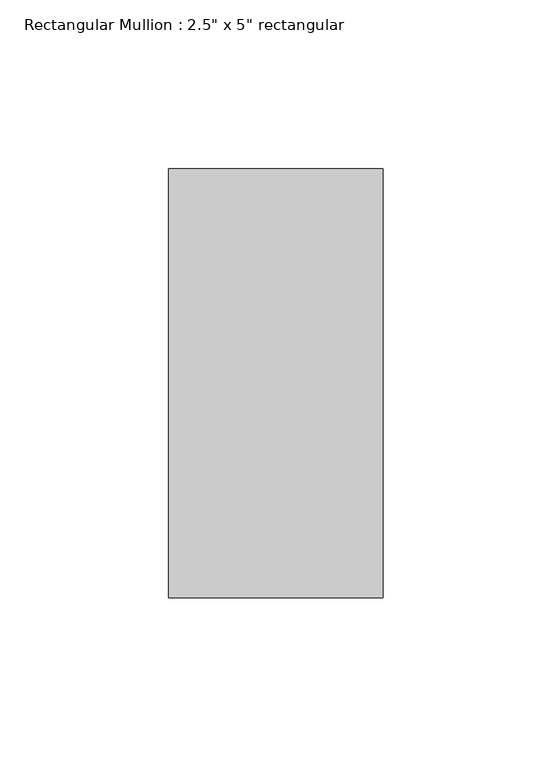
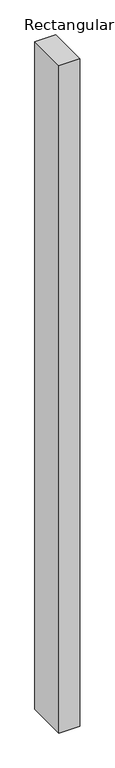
"""IFC4 building model written with IfcOpenShell, lengths in millimetres: member geometry."""

import ifcopenshell
import ifcopenshell.guid

model = None  # the IFC model being written
_history = None  # IfcOwnerHistory: only IFC2X3 demands one
_inside = {}  # id of a spatial element -> (the spatial element, [elements in it])
_under = {}  # id of a project, library or spatial element -> (it, [spatial elements below it])
_declared = {}  # id of a project -> (the project, [libraries it declares])
_typed = {}  # id of a type object -> (the type object, [elements of that type])
_made_of = {}  # id of a material, layer set ... -> (it, [elements and type objects made of it])


def new_model(schema):
    """Start an empty IFC model of exactly this schema.

    Asked for "IFC4X3", IfcOpenShell would pick the latest addendum, in which some entities
    have other attributes; the version numbers below select the first issue.
    IFC2X3 requires an IfcOwnerHistory on every rooted entity: one is made here for all.
    """
    global model, _history
    if schema == "IFC4X3":
        model = ifcopenshell.file(schema_version=(4, 3, 0, 0))
    else:
        model = ifcopenshell.file(schema=schema)
    _inside.clear()
    _under.clear()
    _declared.clear()
    _typed.clear()
    _made_of.clear()
    _history = None
    if model.schema == "IFC2X3":
        org = make("IfcOrganization", Name="unknown")
        user = make(
            "IfcPersonAndOrganization",
            ThePerson=make("IfcPerson", FamilyName="unknown"),
            TheOrganization=org,
        )
        app = make(
            "IfcApplication",
            ApplicationDeveloper=org,
            Version="unknown",
            ApplicationFullName="unknown",
            ApplicationIdentifier="unknown",
        )
        _history = make(
            "IfcOwnerHistory",
            OwningUser=user,
            OwningApplication=app,
            ChangeAction="ADDED",
            CreationDate=0,
        )
    return model


def make(cls, **values):
    """One entity of the class cls with the attributes given. An attribute that is None is left unset."""
    return model.create_entity(
        cls, **{name: value for name, value in values.items() if value is not None}
    )


def rooted(cls, **values):
    """An entity with a GlobalId (a new one), such as an element, a storey or a relation."""
    return make(cls, GlobalId=ifcopenshell.guid.new(), OwnerHistory=_history, **values)


def si_unit(unit_type, name, prefix=None):
    """IfcSIUnit, for example si_unit("LENGTHUNIT", "METRE", prefix="MILLI")."""
    return make("IfcSIUnit", UnitType=unit_type, Prefix=prefix, Name=name)


def assignment(units):
    """IfcUnitAssignment: the units of a project."""
    return None if units is None else make("IfcUnitAssignment", Units=units)


def point(xyz):
    """IfcCartesianPoint."""
    return None if xyz is None else make("IfcCartesianPoint", Coordinates=xyz)


def direction(xyz):
    """IfcDirection."""
    return None if xyz is None else make("IfcDirection", DirectionRatios=xyz)


def frame(location, z_axis=None, x_axis=None):
    """IfcAxis2Placement3D, a coordinate frame: its origin and axes. An axis left out is left unset."""
    return make(
        "IfcAxis2Placement3D",
        Location=point(location),
        Axis=direction(z_axis),
        RefDirection=direction(x_axis),
    )


def origin():
    """The frame at (0, 0, 0) with its axes left unset."""
    return frame((0.0, 0.0, 0.0))


def place(relative_to, where):
    """IfcLocalPlacement: puts the frame where relative to a parent placement (None: the world)."""
    return make(
        "IfcLocalPlacement", PlacementRelTo=relative_to, RelativePlacement=where
    )


def context(
    kind, dimensions, precision=None, world=None, true_north=None, identifier=None
):
    """IfcGeometricRepresentationContext, for example the 3D "Model" context."""
    return make(
        "IfcGeometricRepresentationContext",
        ContextIdentifier=identifier,
        ContextType=kind,
        CoordinateSpaceDimension=dimensions,
        Precision=precision,
        WorldCoordinateSystem=world,
        TrueNorth=true_north,
    )


def project(units=None, contexts=None):
    """IfcProject with its units and contexts."""
    return rooted(
        "IfcProject",
        Name="project",
        RepresentationContexts=contexts,
        UnitsInContext=assignment(units),
    )


def spatial(cls, under=None, at=None, **own):
    """A site, building, storey or space (cls), placed at a placement, below another one or the project."""
    s = rooted(cls, ObjectPlacement=at, **own)
    if under is not None:
        _under.setdefault(under.id(), (under, []))[1].append(s)
    return s


def polyline(points):
    """IfcPolyline through the points."""
    return make("IfcPolyline", Points=[point(p) for p in points])


def outline(outer, holes=None, kind="AREA"):
    """IfcArbitraryClosedProfileDef: a profile drawn as a closed curve; with holes, ...WithVoids."""
    if holes is None:
        return make("IfcArbitraryClosedProfileDef", ProfileType=kind, OuterCurve=outer)
    return make(
        "IfcArbitraryProfileDefWithVoids",
        ProfileType=kind,
        OuterCurve=outer,
        InnerCurves=holes,
    )


def extrude(swept, where, along, depth):
    """IfcExtrudedAreaSolid: the profile swept, set in the frame where, extruded along a direction by depth."""
    return make(
        "IfcExtrudedAreaSolid",
        SweptArea=swept,
        Position=where,
        ExtrudedDirection=direction(along),
        Depth=depth,
    )


def shape(context_of_items, identifier, shape_type, items):
    """IfcShapeRepresentation: the items that make up one representation, for example the "Body"."""
    return make(
        "IfcShapeRepresentation",
        ContextOfItems=context_of_items,
        RepresentationIdentifier=identifier,
        RepresentationType=shape_type,
        Items=items,
    )


def source(mapping_origin, context_of_items, identifier, shape_type, items):
    """IfcRepresentationMap: a shape defined once, which mapped items show again and again."""
    return make(
        "IfcRepresentationMap",
        MappingOrigin=mapping_origin,
        MappedRepresentation=shape(context_of_items, identifier, shape_type, items),
    )


def transform(
    local_origin,
    x_axis=None,
    y_axis=None,
    z_axis=None,
    scale=None,
    scale2=None,
    scale3=None,
    uniform=True,
):
    """IfcCartesianTransformationOperator3D, or its non-uniform kind. x_axis, y_axis, z_axis: its Axis1, 2, 3."""
    if uniform:
        return make(
            "IfcCartesianTransformationOperator3D",
            Axis1=direction(x_axis),
            Axis2=direction(y_axis),
            LocalOrigin=point(local_origin),
            Scale=scale,
            Axis3=direction(z_axis),
        )
    return make(
        "IfcCartesianTransformationOperator3DnonUniform",
        Axis1=direction(x_axis),
        Axis2=direction(y_axis),
        LocalOrigin=point(local_origin),
        Scale=scale,
        Axis3=direction(z_axis),
        Scale2=scale2,
        Scale3=scale3,
    )


def mapped(mapping_source, mapping_target):
    """IfcMappedItem: shows the shape of a source again, moved by a transform."""
    return make(
        "IfcMappedItem", MappingSource=mapping_source, MappingTarget=mapping_target
    )


def made_of(thing, what):
    """Note that an element or type object is made of a material, layer set ...; save() writes the relation."""
    if what is not None:
        _made_of.setdefault(what.id(), (what, []))[1].append(thing)
    return thing


def element(
    cls,
    number,
    at=None,
    inside=None,
    cuts=None,
    type_object=None,
    material=None,
    context=None,
    identifier="Body",
    shape_type=None,
    held_by="IfcProductDefinitionShape",
    body=None,
    shapes=None,
    **own,
):
    """One element of the class cls, such as IfcWall. Its Tag is "e" and its number.

    at: its placement. inside: the storey or other place that contains it. cuts: it is an
    opening in that element (IfcRelVoidsElement). A single representation is given by context,
    identifier, shape_type and body (its items); several are given by shapes. held_by: the class
    of the entity that holds the representations. save() writes the other relations.
    """
    e = rooted(cls, Tag="e%d" % number, ObjectPlacement=at, **own)
    if body is not None:
        shapes = [shape(context, identifier, shape_type, body)]
    if shapes is not None:
        e.Representation = make(held_by, Representations=shapes)
    if inside is not None:
        _inside.setdefault(inside.id(), (inside, []))[1].append(e)
    if cuts is not None:
        rooted(
            "IfcRelVoidsElement", RelatingBuildingElement=cuts, RelatedOpeningElement=e
        )
    if type_object is not None:
        _typed.setdefault(type_object.id(), (type_object, []))[1].append(e)
    return made_of(e, material)


def aggregate(whole, parts):
    """IfcRelAggregates: a whole, such as a stair, and the parts it consists of."""
    return rooted("IfcRelAggregates", RelatingObject=whole, RelatedObjects=parts)


def save(model, path):
    """Write the relations noted so far, then the file.

    IfcRelAggregates (storeys below a building ...), IfcRelContainedInSpatialStructure (elements
    in a storey), IfcRelDefinesByType, IfcRelAssociatesMaterial and IfcRelDeclares: one each for
    every whole, place, type object, material and project.
    """
    for whole, parts in _under.values():
        aggregate(whole, parts)
    for where, things in _inside.values():
        rooted(
            "IfcRelContainedInSpatialStructure",
            RelatedElements=things,
            RelatingStructure=where,
        )
    for kind, things in _typed.values():
        rooted("IfcRelDefinesByType", RelatedObjects=things, RelatingType=kind)
    for what, things in _made_of.values():
        rooted("IfcRelAssociatesMaterial", RelatedObjects=things, RelatingMaterial=what)
    for by, libraries in _declared.values():
        rooted("IfcRelDeclares", RelatingContext=by, RelatedDefinitions=libraries)
    model.write(path)


def member_06c5344b(model_context):
    return source(origin(), model_context, "Body", "SweptSolid", [
        extrude(outline(polyline([(0.0, 63.5), (0.0, -63.5), (-63.5, -63.5), (-63.5, 63.5), (0.0, 63.5)])), frame((0.0, 0.0, -2155.2614691), z_axis=(0.0, 0.0, 1.0), x_axis=(1.0, 0.0, 0.0)), (0.0, 0.0, 1.0), 2155.2614691),
    ])


if __name__ == "__main__":
    model = new_model("IFC4")
    model_context = context("Model", 3, world=origin())
    ifc_project = project(units=[si_unit("LENGTHUNIT", "METRE", prefix="MILLI")], contexts=[model_context])
    site = spatial("IfcSite", under=ifc_project)
    building = spatial("IfcBuilding", under=site)
    placement = place(None, origin())
    member_shape = member_06c5344b(model_context)
    element("IfcMember", 1, ObjectType="Rectangular Mullion : 2.5\" x 5\" rectangular", at=placement, inside=building, context=model_context, shape_type="MappedRepresentation", body=[
        mapped(member_shape, transform((0.0, 0.0, 0.0), x_axis=(1.0, 0.0, 0.0), y_axis=(0.0, 1.0, 0.0), z_axis=(0.0, 0.0, 1.0))),
    ])
    save(model, "model.ifc")
